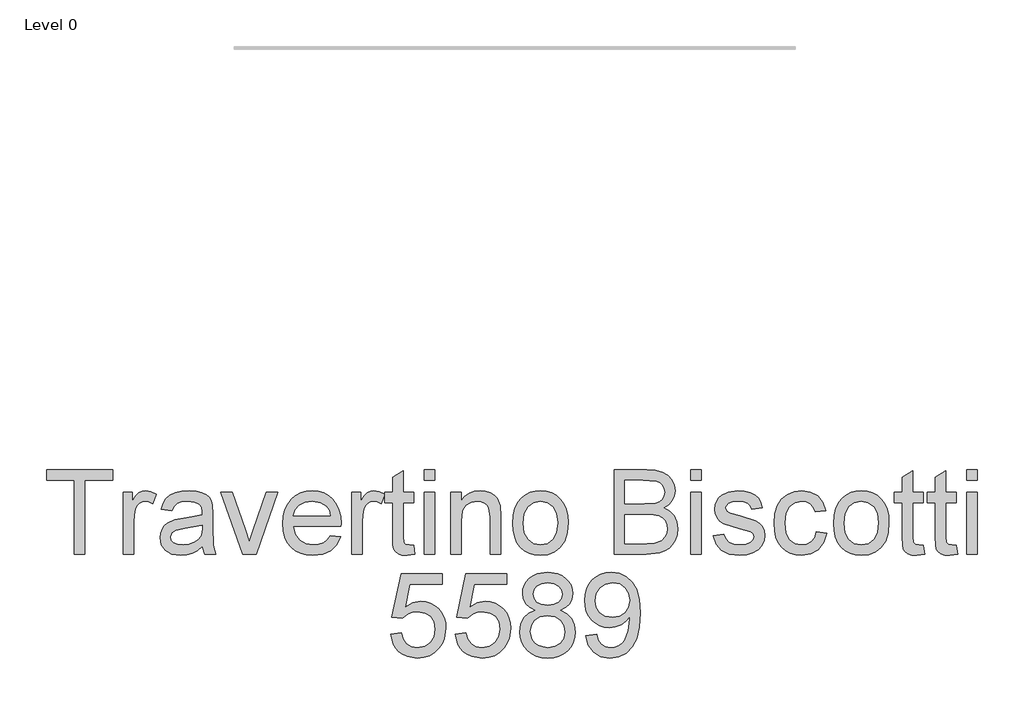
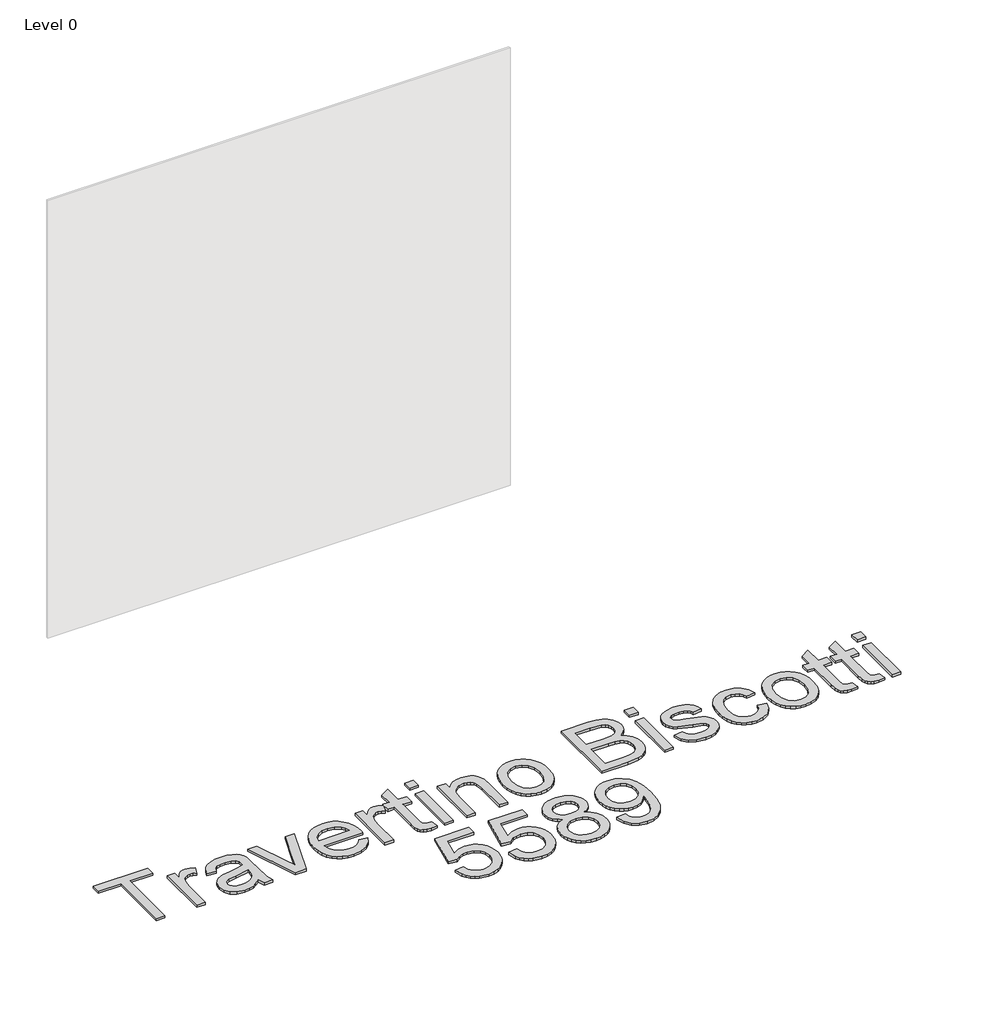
# One storey, part 3 of 8: 1 proxy.
"""IFC4 building model written with IfcOpenShell, lengths in millimetres."""

from ifc_helpers import new_model, si_unit, origin, origin_with_axes, place, context, project, spatial, polyline, outline, extrude, element, save

model = new_model("IFC4")

# Units and contexts
model_context = context("Model", 3, world=origin())
ifc_project = project(units=[si_unit("LENGTHUNIT", "METRE", prefix="MILLI")], contexts=[model_context])

# Site, building, storey
site = spatial("IfcSite", under=ifc_project)
building = spatial("IfcBuilding", under=site)
storey = spatial("IfcBuildingStorey", under=building, Name="Level 0", Elevation=0.0)

# Proxy
placement = place(None, origin())
element("IfcBuildingElementProxy", 1, Name="300mm Arial", ObjectType="300mm Arial", at=placement, inside=storey, context=model_context, shape_type="SweptSolid", body=[
    extrude(outline(polyline([(-11021.0727173, -7002.860494), (-11021.0727173, -6739.1626798), (-11119.9593976, -6739.1626798), (-11119.9593976, -6701.4915635), (-10884.5149207, -6701.4915635), (-10884.5149207, -6739.1626798), (-10983.401601, -6739.1626798), (-10983.401601, -7002.860494), (-11021.0727173, -7002.860494)])), origin_with_axes(), (0.0, 0.0, 1.0), 10.0),
    extrude(outline(polyline([(-10846.8438044, -7002.860494), (-10846.8438044, -6781.5426857), (-10813.8815776, -6781.5426857), (-10813.8815776, -6814.2841833), (-10801.7046836, -6795.3014723), (-10790.4842827, -6784.1178596), (-10779.2270937, -6778.654812), (-10766.939835, -6776.8337961), (-10748.1778533, -6779.7400639), (-10729.1215659, -6788.4588672), (-10741.7031302, -6822.2304343), (-10754.946882, -6816.4362929), (-10768.1906338, -6814.5049125), (-10779.4386258, -6816.3627165), (-10789.4910014, -6821.9361288), (-10797.6119964, -6830.8020848), (-10803.065847, -6842.5375205), (-10807.6459778, -6863.5803706), (-10809.1726881, -6886.5362071), (-10809.1726881, -7002.860494), (-10846.8438044, -7002.860494)])), origin_with_axes(), (0.0, 0.0, 1.0), 10.0),
    extrude(outline(polyline([(-10564.3104321, -6974.6071568), (-10582.3090587, -6990.0398064), (-10600.8411142, -7000.1381672), (-10620.3296629, -7005.7115794), (-10641.1977691, -7007.5693835), (-10672.6792708, -7003.0996173), (-10695.9018218, -6989.6903186), (-10710.2216284, -6969.3280501), (-10714.9948973, -6943.9993748), (-10713.1922756, -6928.3827841), (-10707.7844102, -6914.2009331), (-10699.442686, -6902.0608273), (-10688.8384875, -6892.5694718), (-10662.4613484, -6880.2086368), (-10629.8670036, -6874.5432541), (-10591.3497588, -6868.5835657), (-10564.5311613, -6861.5938078), (-10564.3104321, -6853.2060983), (-10566.9040002, -6836.3938912), (-10574.6847044, -6825.3942195), (-10592.0855227, -6817.2272392), (-10616.3289462, -6814.5049125), (-10638.7697479, -6816.3167313), (-10654.4415209, -6821.7521878), (-10665.1284929, -6831.8045633), (-10672.6148915, -6847.4671392), (-10710.2860078, -6842.7582497), (-10703.7469053, -6822.156858), (-10693.9888354, -6805.9700502), (-10680.1012901, -6793.590821), (-10661.1737614, -6784.4121652), (-10638.0247869, -6778.7283884), (-10611.4729039, -6776.8337961), (-10586.0062728, -6778.5076592), (-10565.8187483, -6783.5292485), (-10550.5976307, -6791.0800264), (-10540.0302204, -6800.3414556), (-10533.0220684, -6811.7917827), (-10528.4787258, -6825.9092543), (-10526.6393158, -6858.8714811), (-10526.6393158, -6905.7396473), (-10524.7263294, -6971.1858542), (-10517.2215367, -7002.860494), (-10554.892653, -7002.860494), (-10564.3104321, -6974.6071568)]), holes=[polyline([(-10564.3104321, -6899.2649241), (-10625.0845377, -6910.8164188), (-10657.4949415, -6916.9232599), (-10672.1734331, -6926.8560738), (-10677.323781, -6941.3506244), (-10674.5186808, -6952.5526311), (-10666.1033802, -6961.7312869), (-10652.2618201, -6967.8565221), (-10633.1779416, -6969.8982672), (-10612.9444319, -6967.64499), (-10595.0653669, -6960.8851583), (-10580.5708163, -6950.9247533), (-10570.4908496, -6939.069756), (-10566.0210834, -6926.8560738), (-10564.5311613, -6909.933502), (-10564.3104321, -6899.2649241)])]), origin_with_axes(), (0.0, 0.0, 1.0), 10.0),
    extrude(outline(polyline([(-10420.5421484, -7002.860494), (-10498.3859786, -6781.5426857), (-10458.5075703, -6781.5426857), (-10411.3450985, -6914.1273567), (-10397.1448535, -6958.7146546), (-10383.2389141, -6916.6289543), (-10335.7821367, -6781.5426857), (-10295.9037284, -6781.5426857), (-10372.7910654, -7002.860494), (-10420.5421484, -7002.860494)])), origin_with_axes(), (0.0, 0.0, 1.0), 10.0),
    extrude(outline(polyline([(-10107.9896053, -6936.9360404), (-10071.054253, -6941.64493), (-10084.3623841, -6969.4752029), (-10105.5983723, -6990.2789297), (-10134.2839709, -7003.2467701), (-10169.9409333, -7007.5693835), (-10193.3152355, -7005.7046817), (-10214.141955, -7000.1105761), (-10232.4210916, -6990.7870668), (-10248.1526455, -6977.7341537), (-10260.8031876, -6961.3151204), (-10269.8392891, -6941.8932503), (-10275.26095, -6919.4685435), (-10277.0681703, -6894.0409998), (-10275.2425559, -6867.7512327), (-10269.7657127, -6844.5792656), (-10260.6376407, -6824.5250983), (-10247.8583399, -6807.5887309), (-10232.1681728, -6794.133447), (-10214.3075019, -6784.5225298), (-10194.2763273, -6778.7559796), (-10172.0746488, -6776.8337961), (-10150.5880411, -6778.751381), (-10131.1569739, -6784.5041357), (-10113.7814475, -6794.0920602), (-10098.4614616, -6807.5151545), (-10085.955773, -6824.4147337), (-10077.0231383, -6844.4321128), (-10071.6635575, -6867.5672917), (-10069.8770306, -6893.8202706), (-10070.0977598, -6903.9738137), (-10239.397054, -6903.9738137), (-10232.8763456, -6932.1719686), (-10217.7288045, -6952.902119), (-10195.8674169, -6965.6492302), (-10169.2051693, -6969.8982672), (-10149.1556005, -6967.9300985), (-10132.269817, -6962.0255925), (-10118.5478186, -6951.8168672), (-10107.9896053, -6936.9360404)]), holes=[polyline([(-10239.397054, -6866.3026974), (-10107.5481469, -6866.3026974), (-10112.6433125, -6846.4002814), (-10122.6313087, -6832.1632482), (-10144.5938638, -6818.9194964), (-10172.2218016, -6814.5049125), (-10197.6148564, -6818.0273826), (-10218.6117212, -6828.5947929), (-10233.2074394, -6845.0667092), (-10239.397054, -6866.3026974)])]), origin_with_axes(), (0.0, 0.0, 1.0), 10.0),
    extrude(outline(polyline([(-9810.888106, -6971.4433716), (-9806.1792164, -7003.96414), (-9834.3589773, -7007.5693835), (-9852.4403773, -7006.005885), (-9865.9232525, -7001.3153896), (-9875.4513961, -6994.0865084), (-9881.6686019, -6984.9078526), (-9885.0899044, -6969.1441091), (-9886.2303386, -6942.1599648), (-9886.2303386, -6819.213802), (-9914.4836758, -6819.213802), (-9914.4836758, -6788.4588672), (-9914.4836758, -6781.5426857), (-9886.2303386, -6781.5426857), (-9886.2303386, -6727.758338), (-9848.5592223, -6705.6118419), (-9848.5592223, -6781.5426857), (-9810.888106, -6781.5426857), (-9810.888106, -6819.213802), (-9848.5592223, -6819.213802), (-9848.5592223, -6941.0563188), (-9846.5726595, -6960.4804881), (-9840.1347246, -6967.3598814), (-9827.295643, -6969.8982672), (-9810.888106, -6971.4433716)])), origin_with_axes(), (0.0, 0.0, 1.0), 10.0),
    extrude(outline(polyline([(-10032.2059143, -7002.860494), (-10032.2059143, -6781.5426857), (-9999.2436875, -6781.5426857), (-9999.2436875, -6814.2841833), (-9987.0667935, -6795.3014723), (-9975.8463926, -6784.1178596), (-9964.5892036, -6778.654812), (-9952.3019449, -6776.8337961), (-9933.5399632, -6779.7400639), (-9914.4836758, -6788.4588672), (-9927.0652401, -6822.2304343), (-9940.3089919, -6816.4362929), (-9953.5527437, -6814.5049125), (-9964.8007357, -6816.3627165), (-9974.8531112, -6821.9361288), (-9982.9741063, -6830.8020848), (-9988.4279569, -6842.5375205), (-9993.0080877, -6863.5803706), (-9994.534798, -6886.5362071), (-9994.534798, -7002.860494), (-10032.2059143, -7002.860494)])), origin_with_axes(), (0.0, 0.0, 1.0), 10.0),
    extrude(outline(polyline([(-9773.2169897, -6739.1626798), (-9773.2169897, -6701.4915635), (-9735.5458734, -6701.4915635), (-9735.5458734, -6739.1626798), (-9773.2169897, -6739.1626798)])), origin_with_axes(), (0.0, 0.0, 1.0), 10.0),
    extrude(outline(polyline([(-9773.2169897, -7002.860494), (-9773.2169897, -6781.5426857), (-9735.5458734, -6781.5426857), (-9735.5458734, -7002.860494), (-9773.2169897, -7002.860494)])), origin_with_axes(), (0.0, 0.0, 1.0), 10.0),
    extrude(outline(polyline([(-9679.0391989, -7002.860494), (-9679.0391989, -6781.5426857), (-9641.3680826, -6781.5426857), (-9641.3680826, -6812.4447733), (-9628.2806806, -6796.8649708), (-9612.5629224, -6785.7365404), (-9594.2148079, -6779.0594822), (-9573.2363371, -6776.8337961), (-9554.6674934, -6778.6272209), (-9537.6621482, -6784.0074951), (-9523.4802973, -6792.303234), (-9513.3819365, -6802.8430532), (-9502.0879592, -6830.5445674), (-9500.1013965, -6866.964885), (-9500.1013965, -7002.860494), (-9537.7725128, -7002.860494), (-9537.7725128, -6872.0416565), (-9542.1135203, -6838.7115477), (-9548.1191939, -6828.7879309), (-9557.4541995, -6821.0900002), (-9569.4195614, -6816.1511844), (-9583.3163038, -6814.5049125), (-9605.3800264, -6818.2021265), (-9624.1879934, -6829.2937687), (-9631.7042824, -6838.3482643), (-9637.0730603, -6850.7228949), (-9641.3680826, -6885.4325611), (-9641.3680826, -7002.860494), (-9679.0391989, -7002.860494)])), origin_with_axes(), (0.0, 0.0, 1.0), 10.0),
    extrude(outline(polyline([(-9457.7213906, -6892.2015898), (-9455.6842441, -6863.5389839), (-9449.5728044, -6838.8403064), (-9439.3870717, -6818.1055575), (-9425.1270458, -6801.334737), (-9410.770451, -6790.6155754), (-9394.923934, -6782.9590314), (-9377.587495, -6778.3651049), (-9358.7611339, -6776.8337961), (-9337.9781004, -6778.698498), (-9319.1862283, -6784.2926036), (-9302.3855174, -6793.6161129), (-9287.5759678, -6806.669026), (-9275.488745, -6823.0098843), (-9266.8550145, -6842.1972296), (-9261.6747761, -6864.2310619), (-9259.94803, -6889.1113811), (-9263.0014506, -6927.1687735), (-9272.1617122, -6956.1394806), (-9287.1621006, -6977.8353213), (-9307.7359012, -6994.0681143), (-9332.1724627, -7004.1940662), (-9358.7611339, -7007.5693835), (-9379.84767, -7005.7115794), (-9398.8142861, -7000.1381672), (-9415.6609823, -6990.8491468), (-9430.3877584, -6977.8445183), (-9442.3462225, -6961.3450108), (-9450.8879826, -6941.5713536), (-9456.0130386, -6918.5235466), (-9457.7213906, -6892.2015898)]), holes=[polyline([(-9420.0502743, -6892.1280134), (-9415.6908727, -6926.2214773), (-9402.6126677, -6950.5108861), (-9382.930981, -6965.0514219), (-9358.7611339, -6969.8982672), (-9334.7016514, -6965.0238308), (-9315.0567529, -6950.4005215), (-9301.978548, -6925.789216), (-9297.6191463, -6890.950791), (-9302.0061391, -6857.8506085), (-9315.1671175, -6833.8922936), (-9334.8396072, -6819.3517577), (-9358.7611339, -6814.5049125), (-9382.930981, -6819.3333636), (-9402.6126677, -6833.8187172), (-9415.6908727, -6858.0529436), (-9420.0502743, -6892.1280134)])]), origin_with_axes(), (0.0, 0.0, 1.0), 10.0),
    extrude(outline(polyline([(-9095.1368962, -7002.860494), (-9095.1368962, -6701.4915635), (-8980.1369845, -6701.4915635), (-8948.5083299, -6703.7080526), (-8923.814251, -6710.3575196), (-8904.8867224, -6721.6055116), (-8890.5577187, -6737.6175755), (-8881.5354127, -6756.4531336), (-8878.5279774, -6776.1716086), (-8881.0571661, -6794.317388), (-8888.6447323, -6811.3779155), (-8901.3458582, -6826.3047274), (-8919.2157261, -6838.0493601), (-8897.8693733, -6849.1961846), (-8882.0964328, -6866.1555446), (-8872.3567569, -6887.8054), (-8869.1101983, -6913.0237108), (-8871.3266874, -6934.0389697), (-8877.9761544, -6953.5275184), (-8887.8997712, -6970.1006023), (-8899.9387095, -6982.3694669), (-8914.6815805, -6991.253817), (-8932.7169953, -6997.6733578), (-8981.0199013, -7002.860494), (-9095.1368962, -7002.860494)]), holes=[polyline([(-9057.4657799, -6965.1893777), (-8980.2105609, -6965.1893777), (-8952.2515292, -6963.7178497), (-8928.596717, -6955.5140812), (-8912.924944, -6938.7754504), (-8908.317222, -6926.9480443), (-8906.7813146, -6913.3915928), (-8908.5839364, -6897.6462434), (-8913.9918017, -6884.1081859), (-8923.437172, -6873.5223815), (-8937.3523084, -6866.6337912), (-8957.0615863, -6862.8538037), (-8983.8893808, -6861.5938078), (-9057.4657799, -6861.5938078), (-9057.4657799, -6965.1893777)]), polyline([(-9057.4657799, -6823.9226915), (-8988.6718468, -6823.9226915), (-8948.4991329, -6820.68533), (-8934.4368436, -6815.1027207), (-8924.3292858, -6806.7426024), (-8918.2316417, -6795.7337336), (-8916.1990937, -6782.2048733), (-8918.093686, -6769.071486), (-8923.7774628, -6757.630356), (-8932.9929068, -6748.7000206), (-8945.4825005, -6743.0990172), (-8993.8957711, -6739.1626798), (-9057.4657799, -6739.1626798), (-9057.4657799, -6823.9226915)])]), origin_with_axes(), (0.0, 0.0, 1.0), 10.0),
    extrude(outline(polyline([(-8822.0213029, -6739.1626798), (-8822.0213029, -6701.4915635), (-8784.3501866, -6701.4915635), (-8784.3501866, -6739.1626798), (-8822.0213029, -6739.1626798)])), origin_with_axes(), (0.0, 0.0, 1.0), 10.0),
    extrude(outline(polyline([(-8822.0213029, -7002.860494), (-8822.0213029, -6781.5426857), (-8784.3501866, -6781.5426857), (-8784.3501866, -7002.860494), (-8822.0213029, -7002.860494)])), origin_with_axes(), (0.0, 0.0, 1.0), 10.0),
    extrude(outline(polyline([(-8741.9701808, -6936.9360404), (-8704.2990645, -6932.2271509), (-8698.3577703, -6948.3403823), (-8686.8614579, -6960.1861825), (-8669.736551, -6967.470246), (-8646.9094732, -6969.8982672), (-8624.3583069, -6967.6725811), (-8608.5025929, -6960.9955229), (-8599.1216021, -6951.3202265), (-8595.9946051, -6940.0998256), (-8599.1399962, -6930.4981055), (-8608.5761693, -6923.1772538), (-8647.3509316, -6912.4350996), (-8704.0783353, -6894.0042116), (-8718.4349302, -6884.7427824), (-8728.8367936, -6872.4831149), (-8735.1551668, -6858.0069584), (-8737.2612913, -6842.0960621), (-8735.5690341, -6827.5003439), (-8730.4922625, -6814.0266659), (-8722.4908292, -6802.2084568), (-8712.0245864, -6792.5791455), (-8688.0754685, -6781.4323211), (-8655.6650647, -6776.8337961), (-8631.1457298, -6778.6824032), (-8609.8269681, -6784.2282242), (-8592.6836672, -6792.9286334), (-8580.6907141, -6804.2410048), (-8572.744463, -6819.0022698), (-8567.7412679, -6838.0493601), (-8605.4123842, -6842.7582497), (-8610.167259, -6830.9032524), (-8619.575841, -6821.972917), (-8633.7301008, -6816.3719136), (-8652.7220088, -6814.5049125), (-8674.3534701, -6816.2891401), (-8688.7744443, -6821.6418232), (-8696.8862423, -6829.3673451), (-8699.590175, -6838.2700893), (-8695.1020146, -6849.2329728), (-8681.0489224, -6857.5471059), (-8648.6017304, -6865.5669334), (-8593.3090665, -6883.2988455), (-8578.7041513, -6891.7785255), (-8567.6309033, -6903.3852025), (-8560.6503424, -6918.1556646), (-8558.3234888, -6936.1267001), (-8561.0550126, -6954.7047408), (-8569.2495841, -6972.1791356), (-8582.5945034, -6987.1795239), (-8600.777071, -6998.3355454), (-8622.7396262, -7005.260924), (-8647.424508, -7007.5693835), (-8685.408324, -7003.1180114), (-8713.1282324, -6989.763895), (-8731.6326967, -6967.654187), (-8741.9701808, -6936.9360404)])), origin_with_axes(), (0.0, 0.0, 1.0), 10.0),
    extrude(outline(polyline([(-8374.6767968, -6922.8093718), (-8337.0056805, -6927.5182614), (-8347.5087115, -6961.0231141), (-8367.2455805, -6986.3425924), (-8394.3584836, -7002.2626857), (-8426.9896165, -7007.5693835), (-8448.1175394, -7005.7184772), (-8467.0611629, -7000.1657584), (-8483.820487, -6990.9112269), (-8498.3955118, -6977.9548829), (-8510.1930275, -6961.5404481), (-8518.6198245, -6941.9116444), (-8523.6759026, -6919.0684718), (-8525.361262, -6893.0109302), (-8522.4825854, -6859.4876834), (-8513.8465556, -6830.4342028), (-8499.3152168, -6806.9725286), (-8478.7506132, -6790.2247008), (-8454.1485048, -6780.1815223), (-8427.5046513, -6776.8337961), (-8395.6736617, -6781.4323211), (-8370.2254247, -6795.2278959), (-8351.9692807, -6817.4847566), (-8341.71457, -6847.4671392), (-8379.3856864, -6852.1760288), (-8386.2190944, -6835.7409006), (-8396.8600811, -6823.9594797), (-8410.7200353, -6816.8685543), (-8427.2103457, -6814.5049125), (-8451.5549368, -6819.1586197), (-8470.8779386, -6833.1197414), (-8483.4870939, -6857.1424357), (-8487.6901457, -6891.9808606), (-8483.5790644, -6927.2883351), (-8471.2458205, -6951.3938029), (-8452.2723066, -6965.2721511), (-8428.2404153, -6969.8982672), (-8408.7334725, -6967.0103936), (-8392.7398028, -6958.3467726), (-8381.1055347, -6943.6866751), (-8374.6767968, -6922.8093718)])), origin_with_axes(), (0.0, 0.0, 1.0), 10.0),
    extrude(outline(polyline([(-8313.4612328, -6892.2015898), (-8311.4240863, -6863.5389839), (-8305.3126466, -6838.8403064), (-8295.1269139, -6818.1055575), (-8280.866888, -6801.334737), (-8266.5102932, -6790.6155754), (-8250.6637762, -6782.9590314), (-8233.3273372, -6778.3651049), (-8214.5009761, -6776.8337961), (-8193.7179426, -6778.698498), (-8174.9260705, -6784.2926036), (-8158.1253596, -6793.6161129), (-8143.31581, -6806.669026), (-8131.2285872, -6823.0098843), (-8122.5948567, -6842.1972296), (-8117.4146183, -6864.2310619), (-8115.6878722, -6889.1113811), (-8118.7412928, -6927.1687735), (-8127.9015544, -6956.1394806), (-8142.9019428, -6977.8353213), (-8163.4757434, -6994.0681143), (-8187.9123049, -7004.1940662), (-8214.5009761, -7007.5693835), (-8235.5875122, -7005.7115794), (-8254.5541283, -7000.1381672), (-8271.4008245, -6990.8491468), (-8286.1276006, -6977.8445183), (-8298.0860647, -6961.3450108), (-8306.6278248, -6941.5713536), (-8311.7528808, -6918.5235466), (-8313.4612328, -6892.2015898)]), holes=[polyline([(-8275.7901165, -6892.1280134), (-8271.4307149, -6926.2214773), (-8258.3525099, -6950.5108861), (-8238.6708232, -6965.0514219), (-8214.5009761, -6969.8982672), (-8190.4414936, -6965.0238308), (-8170.7965951, -6950.4005215), (-8157.7183902, -6925.789216), (-8153.3589885, -6890.950791), (-8157.7459813, -6857.8506085), (-8170.9069597, -6833.8922936), (-8190.5794494, -6819.3517577), (-8214.5009761, -6814.5049125), (-8238.6708232, -6819.3333636), (-8258.3525099, -6833.8187172), (-8271.4307149, -6858.0529436), (-8275.7901165, -6892.1280134)])]), origin_with_axes(), (0.0, 0.0, 1.0), 10.0),
    extrude(outline(polyline([(-7993.2567442, -6971.4433716), (-7988.5478547, -7003.96414), (-8016.7276155, -7007.5693835), (-8034.8090156, -7006.005885), (-8048.2918907, -7001.3153896), (-8057.8200344, -6994.0865084), (-8064.0372401, -6984.9078526), (-8067.4585426, -6969.1441091), (-8068.5989768, -6942.1599648), (-8068.5989768, -6819.213802), (-8096.8523141, -6819.213802), (-8096.8523141, -6781.5426857), (-8068.5989768, -6781.5426857), (-8068.5989768, -6727.758338), (-8030.9278605, -6705.6118419), (-8030.9278605, -6781.5426857), (-7993.2567442, -6781.5426857), (-7993.2567442, -6819.213802), (-8030.9278605, -6819.213802), (-8030.9278605, -6941.0563188), (-8028.9412977, -6960.4804881), (-8022.5033628, -6967.3598814), (-8009.6642812, -6969.8982672), (-7993.2567442, -6971.4433716)])), origin_with_axes(), (0.0, 0.0, 1.0), 10.0),
    extrude(outline(polyline([(-7875.5345058, -6971.4433716), (-7870.8256162, -7003.96414), (-7899.0053771, -7007.5693835), (-7917.0867771, -7006.005885), (-7930.5696522, -7001.3153896), (-7940.0977959, -6994.0865084), (-7946.3150016, -6984.9078526), (-7949.7363042, -6969.1441091), (-7950.8767384, -6942.1599648), (-7950.8767384, -6819.213802), (-7979.1300756, -6819.213802), (-7979.1300756, -6781.5426857), (-7950.8767384, -6781.5426857), (-7950.8767384, -6727.758338), (-7913.2056221, -6705.6118419), (-7913.2056221, -6781.5426857), (-7875.5345058, -6781.5426857), (-7875.5345058, -6819.213802), (-7913.2056221, -6819.213802), (-7913.2056221, -6941.0563188), (-7911.2190593, -6960.4804881), (-7904.7811244, -6967.3598814), (-7891.9420427, -6969.8982672), (-7875.5345058, -6971.4433716)])), origin_with_axes(), (0.0, 0.0, 1.0), 10.0),
    extrude(outline(polyline([(-7837.8633895, -6739.1626798), (-7837.8633895, -6701.4915635), (-7800.1922731, -6701.4915635), (-7800.1922731, -6739.1626798), (-7837.8633895, -6739.1626798)])), origin_with_axes(), (0.0, 0.0, 1.0), 10.0),
    extrude(outline(polyline([(-7837.8633895, -7002.860494), (-7837.8633895, -6781.5426857), (-7800.1922731, -6781.5426857), (-7800.1922731, -7002.860494), (-7837.8633895, -7002.860494)])), origin_with_axes(), (0.0, 0.0, 1.0), 10.0),
    extrude(outline(polyline([(-9893.2936729, -7288.7338254), (-9855.6225566, -7284.0249358), (-9848.7063751, -7306.6404815), (-9836.6398456, -7322.8364863), (-9819.4781506, -7332.5761621), (-9797.2764722, -7335.8227207), (-9770.2739337, -7331.3069693), (-9750.040424, -7317.7597148), (-9737.4036774, -7296.7444558), (-9733.1914286, -7269.8246908), (-9737.136963, -7244.4776213), (-9748.9735662, -7225.0902402), (-9768.7932087, -7212.7845875), (-9796.687861, -7208.6827032), (-9814.9623991, -7210.3197781), (-9829.7604523, -7215.2310027), (-9850.9136671, -7232.2271509), (-9888.5847834, -7227.5182614), (-9855.6225566, -7072.1249066), (-9709.6469809, -7072.1249066), (-9709.6469809, -7109.7960229), (-9825.1619274, -7109.7960229), (-9841.2751588, -7192.790201), (-9814.3645908, -7176.4562404), (-9786.1664359, -7171.0115869), (-9767.8206207, -7172.6992456), (-9750.969326, -7177.7622215), (-9735.612552, -7186.2005148), (-9721.7502986, -7198.0141254), (-9710.2746796, -7212.4810848), (-9702.0778089, -7228.8794248), (-9697.1596864, -7247.2091452), (-9695.5203123, -7267.470246), (-9701.4248183, -7305.1413624), (-9708.8054508, -7321.9351754), (-9719.1383364, -7337.3678251), (-9734.7917153, -7353.1729553), (-9753.0570563, -7364.4623341), (-9773.9343596, -7371.2359613), (-9797.423625, -7373.4938371), (-9834.4233566, -7367.6904986), (-9850.1020274, -7360.4363255), (-9863.8999015, -7350.2804832), (-9875.380119, -7337.7288093), (-9884.1058201, -7323.2871418), (-9893.2936729, -7288.7338254)])), origin_with_axes(), (0.0, 0.0, 1.0), 10.0),
    extrude(outline(polyline([(-9662.5580855, -7288.7338254), (-9624.8869692, -7284.0249358), (-9617.9707877, -7306.6404815), (-9605.9042583, -7322.8364863), (-9588.7425632, -7332.5761621), (-9566.5408848, -7335.8227207), (-9539.5383463, -7331.3069693), (-9519.3048366, -7317.7597148), (-9506.6680901, -7296.7444558), (-9502.4558412, -7269.8246908), (-9506.4013756, -7244.4776213), (-9518.2379788, -7225.0902402), (-9538.0576213, -7212.7845875), (-9565.9522736, -7208.6827032), (-9584.2268117, -7210.3197781), (-9599.024865, -7215.2310027), (-9620.1780797, -7232.2271509), (-9657.849196, -7227.5182614), (-9624.8869692, -7072.1249066), (-9478.9113935, -7072.1249066), (-9478.9113935, -7109.7960229), (-9594.42634, -7109.7960229), (-9610.5395714, -7192.790201), (-9583.6290035, -7176.4562404), (-9555.4308485, -7171.0115869), (-9537.0850333, -7172.6992456), (-9520.2337386, -7177.7622215), (-9504.8769646, -7186.2005148), (-9491.0147112, -7198.0141254), (-9479.5390922, -7212.4810848), (-9471.3422215, -7228.8794248), (-9466.4240991, -7247.2091452), (-9464.7847249, -7267.470246), (-9470.6892309, -7305.1413624), (-9478.0698635, -7321.9351754), (-9488.402749, -7337.3678251), (-9504.0561279, -7353.1729553), (-9522.321469, -7364.4623341), (-9543.1987722, -7371.2359613), (-9566.6880376, -7373.4938371), (-9603.6877693, -7367.6904986), (-9619.36644, -7360.4363255), (-9633.1643141, -7350.2804832), (-9644.6445316, -7337.7288093), (-9653.3702327, -7323.2871418), (-9662.5580855, -7288.7338254)])), origin_with_axes(), (0.0, 0.0, 1.0), 10.0),
    extrude(outline(polyline([(-9376.9345045, -7202.7965913), (-9397.1036349, -7192.8637774), (-9411.2578946, -7179.3992964), (-9419.618013, -7162.6790597), (-9422.4047191, -7142.9789789), (-9420.8872058, -7127.6153071), (-9416.3346662, -7113.5300252), (-9408.7471, -7100.7231332), (-9398.1245074, -7089.1946312), (-9384.9773246, -7079.6664875), (-9369.8159879, -7072.8606706), (-9333.4508526, -7067.4160171), (-9296.8649882, -7072.9894293), (-9281.5381046, -7079.9561946), (-9268.1885867, -7089.709666), (-9257.372856, -7101.4634957), (-9249.6473341, -7114.4313361), (-9245.012021, -7128.613187), (-9243.4669166, -7144.0090485), (-9246.2168345, -7163.0745329), (-9254.4665883, -7179.509661), (-9268.3081483, -7192.8913686), (-9287.8334852, -7202.7965913), (-9264.6477225, -7214.7435591), (-9247.771136, -7232.3375155), (-9237.4796372, -7254.732332), (-9234.0491375, -7281.0818799), (-9235.7505918, -7299.8714528), (-9240.8549545, -7317.0975272), (-9249.3622256, -7332.7601031), (-9261.2724052, -7346.8591806), (-9275.9600938, -7358.5118428), (-9292.7998922, -7366.8351729), (-9311.7918002, -7371.829171), (-9332.9358179, -7373.4938371), (-9354.0798355, -7371.8222732), (-9373.0717435, -7366.8075818), (-9389.9115419, -7358.4497627), (-9404.5992305, -7346.748816), (-9416.5094101, -7332.5508703), (-9425.0166812, -7316.702054), (-9430.1210439, -7299.2023674), (-9431.8224982, -7280.0518103), (-9428.2540428, -7252.6813898), (-9417.5486767, -7230.1670117), (-9400.258223, -7213.2812282), (-9376.9345045, -7202.7965913)]), holes=[polyline([(-9384.7336028, -7144.0826249), (-9381.3950737, -7160.52695), (-9371.3794863, -7173.6603373), (-9354.9811464, -7182.268776), (-9332.4943595, -7185.1382555), (-9310.5318043, -7182.2871701), (-9294.3817848, -7173.7339137), (-9284.4489709, -7161.0419848), (-9281.1380329, -7145.774882), (-9284.5593355, -7129.9283651), (-9294.8232432, -7116.822569), (-9311.1939919, -7108.0209923), (-9332.9358179, -7105.0871334), (-9354.8155995, -7107.9566129), (-9371.1587571, -7116.5650516), (-9381.3398914, -7129.1834041), (-9384.7336028, -7144.0826249)]), polyline([(-9394.1513818, -7278.7274351), (-9387.8605997, -7307.0911369), (-9379.1509935, -7319.2588339), (-9365.603739, -7328.317928), (-9349.380143, -7333.9465226), (-9332.6415123, -7335.8227207), (-9307.0001372, -7331.8771864), (-9287.7599088, -7320.0405832), (-9275.7301676, -7302.1155329), (-9271.7202539, -7279.9046575), (-9275.8589263, -7257.316703), (-9288.2749436, -7238.9961796), (-9307.9566304, -7226.8560738), (-9333.892311, -7222.8093718), (-9359.1750012, -7226.8008915), (-9378.2220915, -7238.7754504), (-9390.1690593, -7256.7464859), (-9394.1513818, -7278.7274351)])]), origin_with_axes(), (0.0, 0.0, 1.0), 10.0),
    extrude(outline(polyline([(-9196.3780212, -7293.4427149), (-9158.7069049, -7288.7338254), (-9152.26897, -7310.1169663), (-9141.7843332, -7324.6758963), (-9127.5105117, -7333.0360146), (-9109.7050232, -7335.8227207), (-9093.7297475, -7334.029296), (-9079.2076058, -7328.6490218), (-9067.1410763, -7320.2705094), (-9058.5326376, -7309.4823699), (-9046.2085908, -7276.7408723), (-9040.7639373, -7233.0364913), (-9040.9846665, -7225.6788514), (-9054.0352803, -7241.6081418), (-9071.1142019, -7254.2264942), (-9090.9890267, -7262.4486568), (-9112.4273499, -7265.1893777), (-9130.3225097, -7263.5155146), (-9146.7783312, -7258.4939254), (-9161.7948144, -7250.12461), (-9175.3719593, -7238.4075684), (-9186.6222506, -7223.9544045), (-9194.6581729, -7207.3767221), (-9199.4797263, -7188.6745212), (-9201.0869108, -7167.8478018), (-9199.4015514, -7146.326705), (-9194.3454732, -7127.0129003), (-9185.9186763, -7109.9063875), (-9174.1211605, -7095.0071667), (-9159.785259, -7082.9360387), (-9143.7433048, -7074.3138045), (-9125.9952978, -7069.1404639), (-9106.541238, -7067.4160171), (-9078.4442506, -7071.3523544), (-9052.8672549, -7083.1613665), (-9031.4749169, -7102.254442), (-9015.9319026, -7128.0429699), (-9006.4681383, -7163.6907352), (-9003.3135502, -7212.3615232), (-9006.4589412, -7263.96617), (-9015.8951144, -7303.8537754), (-9031.5392963, -7333.8269609), (-9053.3087133, -7355.6883485), (-9080.2652665, -7369.0424649), (-9111.4708568, -7373.4938371), (-9143.6789254, -7368.2423216), (-9169.3754828, -7352.4877751), (-9187.3465183, -7327.2234791), (-9196.3780212, -7293.4427149)]), holes=[polyline([(-9040.9846665, -7166.964885), (-9045.0497625, -7141.4338745), (-9057.2450507, -7121.788976), (-9076.1725793, -7109.262594), (-9100.4343969, -7105.0871334), (-9125.5975254, -7109.5844908), (-9145.7574587, -7123.0765629), (-9159.0012105, -7143.7239399), (-9163.4157945, -7169.6872117), (-9159.2403338, -7192.964945), (-9146.7139519, -7211.4418182), (-9127.0506593, -7223.4991506), (-9101.4644665, -7227.5182614), (-9077.395787, -7223.4991506), (-9058.0176029, -7211.4418182), (-9045.2429006, -7192.2843633), (-9040.9846665, -7166.964885)])]), origin_with_axes(), (0.0, 0.0, 1.0), 10.0),
])

save(model, "model.ifc")
